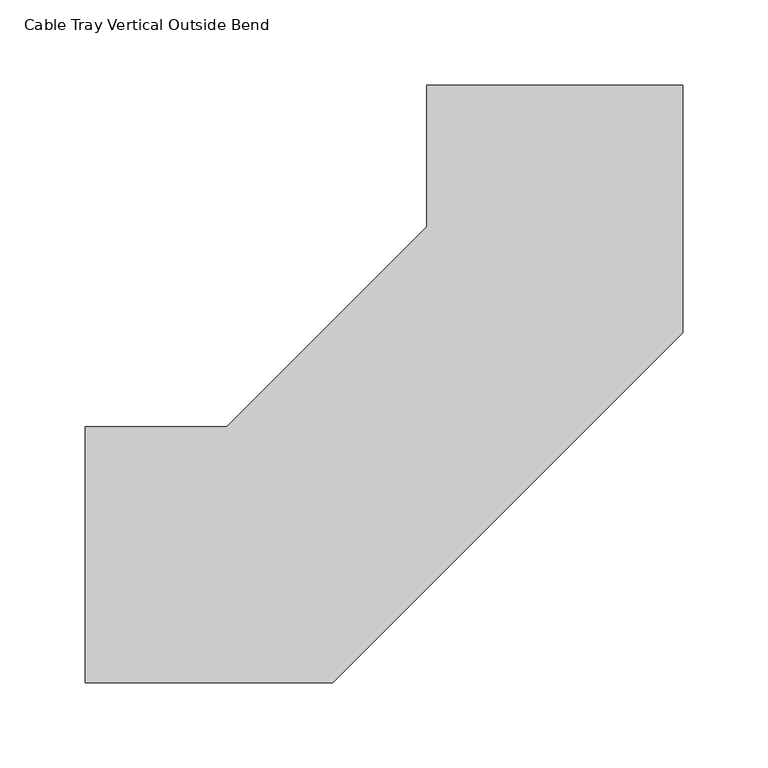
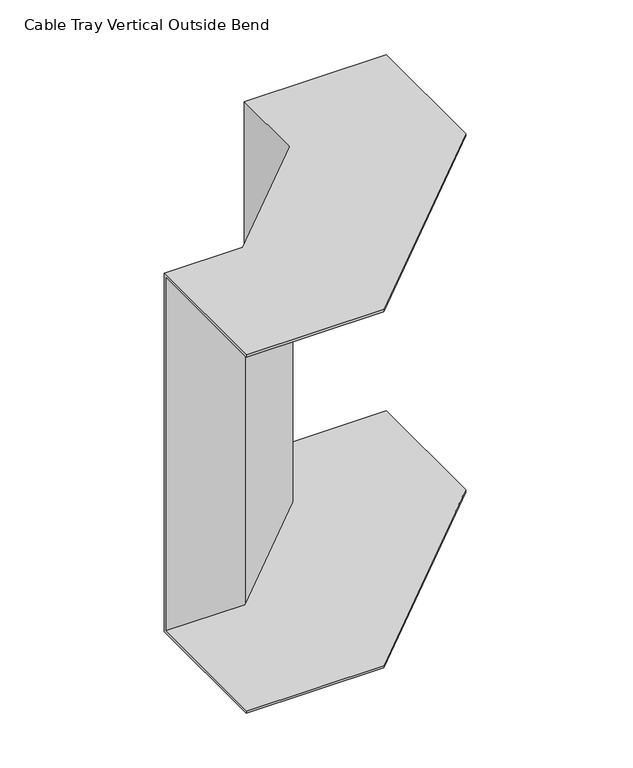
"""IFC4 building model written with IfcOpenShell, lengths in millimetres: cable carrier fitting geometry, Cable Tray Vertical Outside Bend : ELEC_ELV_TKG_N2402."""

from ifc_helpers import new_model, si_unit, origin, place, context, project, spatial, faceted_brep, source, transform, mapped, element, save


def cable_tray_vertical_outside_bend_1a225cb0(model_context):
    return source(origin(), model_context, "Body", "Brep", [
        faceted_brep([(-275.0062366, -75.0, 200.0), (-275.0062366, 75.0, 200.0), (-275.0062366, 75.0, -200.0), (-275.0062366, -75.0, -200.0), (-275.0062366, -75.0, -197.46), (-275.0062366, 72.46, -197.46), (-275.0062366, 72.46, 197.46), (-275.0062366, -75.0, 197.46), (74.9937633, 275.0079374, 200.0), (74.9937633, 275.0079374, 197.46), (-72.4662367, 275.0045933, 197.46), (-72.4662367, 275.0045933, -197.46), (74.9937633, 275.0079374, -197.46), (74.9937633, 275.0079374, -200.0), (-75.0062367, 275.0045357, -200.0), (-75.0062367, 275.0045357, 200.0), (-130.029165, -75.0, 200.0), (74.9970511, 130.0308658, 200.0), (-75.0043579, 192.1604947, 200.0), (-192.1621957, 75.0, 200.0), (-192.1621957, 75.0, -200.0), (-75.0043579, 192.1604947, -200.0), (74.9970511, 130.0308658, -200.0), (-130.029165, -75.0, -200.0), (-130.029165, -75.0, -197.46), (74.9970511, 130.0308658, -197.46), (-72.464334, 191.108433, -197.46), (-191.1100764, 72.46, -197.46), (-191.1100764, 72.46, 197.46), (-72.464334, 191.108433, 197.46), (74.9970511, 130.0308658, 197.46), (-130.029165, -75.0, 197.46)], [[[0, 1, 2, 3, 4, 5, 6, 7]], [[8, 9, 10, 11, 12, 13, 14, 15]], [[1, 0, 16, 17, 8, 15, 18, 19]], [[2, 1, 19, 20]], [[3, 2, 20, 21, 14, 13, 22, 23]], [[4, 3, 23, 24]], [[5, 4, 24, 25, 12, 11, 26, 27]], [[6, 5, 27, 28]], [[7, 6, 28, 29, 10, 9, 30, 31]], [[0, 7, 31, 16]], [[20, 19, 18, 21]], [[24, 23, 22, 25]], [[28, 27, 26, 29]], [[16, 31, 30, 17]], [[21, 18, 15, 14]], [[25, 22, 13, 12]], [[29, 26, 11, 10]], [[17, 30, 9, 8]]]),
    ])


if __name__ == "__main__":
    model = new_model("IFC4")
    model_context = context("Model", 3, world=origin())
    ifc_project = project(units=[si_unit("LENGTHUNIT", "METRE", prefix="MILLI")], contexts=[model_context])
    site = spatial("IfcSite", under=ifc_project)
    building = spatial("IfcBuilding", under=site)
    placement = place(None, origin())
    cable_tray_vertical_outside_bend_shape = cable_tray_vertical_outside_bend_1a225cb0(model_context)
    element("IfcCableCarrierFitting", 1, ObjectType="Cable Tray Vertical Outside Bend : ELEC_ELV_TKG_N2402", at=placement, inside=building, context=model_context, shape_type="MappedRepresentation", body=[
        mapped(cable_tray_vertical_outside_bend_shape, transform((0.0, 0.0, 0.0), x_axis=(1.0, 0.0, 0.0), y_axis=(0.0, 1.0, 0.0), z_axis=(0.0, 0.0, 1.0))),
    ])
    save(model, "model.ifc")
